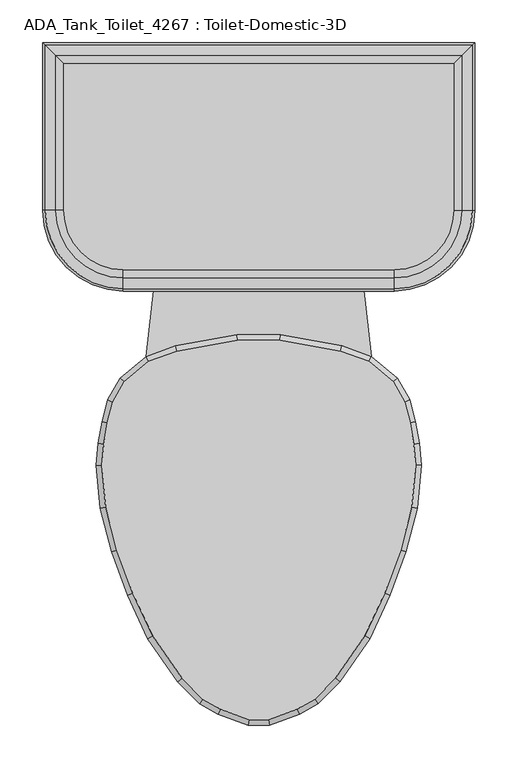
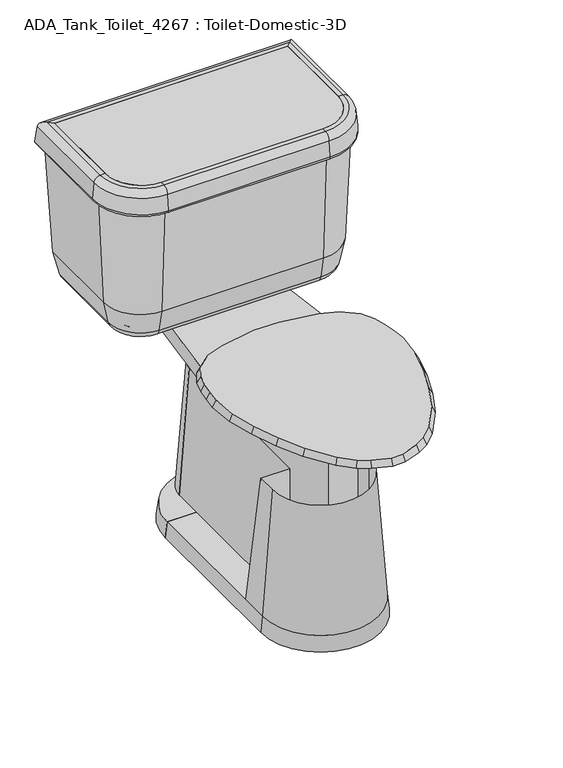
"""IFC4 building model written with IfcOpenShell, lengths in millimetres: flow terminal geometry, ADA_Tank_Toilet_4267 : Toilet-Domestic-3D."""

from ifc_helpers import new_model, si_unit, point, frame, frame_2d, origin, place, context, project, spatial, polyline, circle_curve, ellipse_curve, trimmed, segment, composite_curve, outline, extrude, faceted_brep, source, transform, mapped, element, save
from ifc_brep_helpers import plane_surface, cylinder_surface, revolved_surface, advanced_brep


def ada_tank_toilet_4267_toilet_domestic_3d_1f2812d0(model_context):
    return source(origin(), model_context, "Body", "SolidModel", [
        advanced_brep(
        [(-117.7636364, 285.75, 0.0), (-38.1, 285.75, 0.0), (-38.1, 285.75, 31.75), (-114.3, 285.75, 31.75), (117.7636364, 285.75, 0.0), (114.3, 285.75, 31.75), (38.1, 285.75, 31.75), (38.1, 285.75, 0.0)],
        [
            (0, 1),
            (1, 2),
            (2, 3),
            (3, 0),
            (4, 5),
            (5, 6),
            (6, 7),
            (7, 4),
            (7, 1, circle_curve(frame((0.0, 285.75, 0.0), z_axis=(0.0, 0.0, 1.0), x_axis=(-1.0, 0.0, 0.0)), 38.1)),
            (0, 4, circle_curve(frame((0.0, 285.75, 0.0), z_axis=(0.0, 0.0, -1.0), x_axis=(-1.0, 0.0, 0.0)), 117.7636364)),
            (6, 2, circle_curve(frame((0.0, 285.75, 31.75), z_axis=(0.0, 0.0, 1.0), x_axis=(-1.0, 0.0, 0.0)), 38.1)),
            (5, 3, circle_curve(frame((0.0, 285.75, 31.75), z_axis=(0.0, 0.0, 1.0), x_axis=(-1.0, 0.0, 0.0)), 114.3)),
        ],
        [
            plane_surface(frame((0.0, 285.75, -304.8), z_axis=(0.0, -1.0, 0.0), x_axis=(-1.0, 0.0, 0.0))),
            plane_surface(frame((0.0, 285.75, -304.8), z_axis=(0.0, -1.0, 0.0), x_axis=(1.0, 0.0, 0.0))),
            plane_surface(frame((0.0, 285.75, 0.0), z_axis=(0.0, 0.0, -1.0), x_axis=(-1.0, 0.0, 0.0))),
            revolved_surface(polyline([(-38.1, 285.75, 0.0), (-38.1, 285.75, 31.75)]), (0.0, 285.75, -304.8), (0.0, 0.0, -1.0)),
            plane_surface(frame((0.0, 285.75, 31.75), z_axis=(0.0, 0.0, 1.0), x_axis=(-1.0, 0.0, 0.0))),
            revolved_surface(polyline([(-114.3, 285.75, 31.75), (-117.7636364, 285.75, 0.0)]), (0.0, 285.75, -304.8), (0.0, 0.0, -1.0)),
        ],
        [
            (0, [[1, 2, 3, 4]]),
            (1, [[5, 6, 7, 8]]),
            (2, [[9, -1, 10, -8]]),
            (3, [[11, -2, -9, -7]]),
            (4, [[12, -3, -11, -6]]),
            (5, [[-10, -4, -12, -5]]),
        ],
    ),
        advanced_brep(
        [(-38.1, 342.9, 288.9252637), (-57.15, 342.9, 31.75), (-38.1, 342.9, 31.75), (38.1, 342.9, 288.9252637), (38.1, 342.9, 31.75), (57.15, 342.9, 31.75)],
        [
            (0, 1),
            (1, 2),
            (2, 0),
            (3, 4),
            (4, 5),
            (5, 3),
            (5, 1, circle_curve(frame((0.0, 342.9, 31.75), z_axis=(0.0, 0.0, 1.0), x_axis=(-1.0, 0.0, 0.0)), 57.15)),
            (0, 3, circle_curve(frame((0.0, 342.9, 288.9252637), z_axis=(0.0, 0.0, -1.0), x_axis=(-1.0, 0.0, 0.0)), 38.1)),
            (4, 2, circle_curve(frame((0.0, 342.9, 31.75), z_axis=(0.0, 0.0, 1.0), x_axis=(-1.0, 0.0, 0.0)), 38.1)),
        ],
        [
            plane_surface(frame((0.0, 342.9, 31.75), z_axis=(0.0, -1.0, 0.0), x_axis=(-1.0, 0.0, 0.0))),
            plane_surface(frame((0.0, 342.9, 31.75), z_axis=(0.0, -1.0, 0.0), x_axis=(1.0, 0.0, 0.0))),
            revolved_surface(polyline([(-38.1, 342.9, 288.9252637), (-57.15, 342.9, 31.75)]), (0.0, 342.9, 31.75), (0.0, 0.0, -1.0)),
            plane_surface(frame((0.0, 342.9, 31.75), z_axis=(0.0, 0.0, -1.0), x_axis=(-1.0, 0.0, 0.0))),
            revolved_surface(polyline([(-38.1, 342.9, 31.75), (-38.1, 342.9, 288.9252637)]), (0.0, 342.9, 31.75), (0.0, 0.0, -1.0)),
        ],
        [
            (0, [[1, 2, 3]]),
            (1, [[4, 5, 6]]),
            (2, [[7, -1, 8, -6]]),
            (3, [[9, -2, -7, -5]]),
            (4, [[-8, -3, -9, -4]]),
        ],
    ),
        faceted_brep([(-157.6293435, 97.472128, 482.6), (-171.060664, 73.773864, 482.6), (-177.5851102, 49.4242991, 482.6), (-181.9845715, 24.4737144, 482.6), (-184.125744, 0.0, 482.6), (-179.7950716, -49.4998127, 482.6), (-166.347, -99.688699, 482.6), (-148.0469602, -149.9676451, 482.6), (-124.7045808, -200.0255393, 482.6), (-90.0971582, -249.9125941, 482.6), (-65.691017, -274.3187354, 482.6), (-44.8990862, -286.3229622, 482.6), (-11.5803237, -298.45, 482.6), (11.5803237, -298.45, 482.6), (44.8990862, -286.3229622, 482.6), (65.691017, -274.3187354, 482.6), (90.0971582, -249.9125941, 482.6), (124.7045808, -200.0255393, 482.6), (148.0469602, -149.9676451, 482.6), (166.347, -99.688699, 482.6), (179.7950716, -49.4998127, 482.6), (184.125744, 0.0, 482.6), (181.9845715, 24.4737144, 482.6), (177.5851102, 49.4242991, 482.6), (171.060664, 73.773864, 482.6), (157.6293435, 97.472128, 482.6), (129.0942628, 121.4159037, 482.6), (95.7755003, 133.5429415, 482.6), (24.844447, 146.05, 482.6), (-24.844447, 146.05, 482.6), (-95.7755003, 133.5429415, 482.6), (-129.0942628, 121.4159037, 482.6), (-162.5887836, 101.6, 469.7681453), (-132.3182423, 127.0, 469.7681453), (-97.4252791, 139.7, 469.7681453), (-25.4, 152.4, 469.7681453), (25.4, 152.4, 469.7681453), (97.4252791, 139.7, 469.7681453), (132.3182423, 127.0, 469.7681453), (162.5887836, 101.6, 469.7681453), (176.9845865, 76.2, 469.7681453), (183.790496, 50.8, 469.7681453), (188.2862441, 25.3033453, 469.7681453), (190.5, 0.0, 469.7681453), (186.0724883, -50.6066907, 469.7681453), (172.4088722, -101.6, 469.7681453), (153.9191843, -152.4, 469.7681453), (130.2307553, -203.2, 469.7681453), (94.9900085, -254.0, 469.7681453), (69.5900085, -279.4, 469.7681453), (47.5929632, -292.1, 469.7681453), (12.7, -304.8, 469.7681453), (-12.7, -304.8, 469.7681453), (-47.5929632, -292.1, 469.7681453), (-69.5900085, -279.4, 469.7681453), (-94.9900085, -254.0, 469.7681453), (-130.2307553, -203.2, 469.7681453), (-153.9191843, -152.4, 469.7681453), (-172.4088722, -101.6, 469.7681453), (-186.0724883, -50.6066907, 469.7681453), (-190.5, 0.0, 469.7681453), (-188.2862441, 25.3033453, 469.7681453), (-183.790496, 50.8, 469.7681453), (-176.9845865, 76.2, 469.7681453)], [[[0, 1, 2, 3, 4, 5, 6, 7, 8, 9, 10, 11, 12, 13, 14, 15, 16, 17, 18, 19, 20, 21, 22, 23, 24, 25, 26, 27, 28, 29, 30, 31]], [[32, 33, 34, 35, 36, 37, 38, 39, 40, 41, 42, 43, 44, 45, 46, 47, 48, 49, 50, 51, 52, 53, 54, 55, 56, 57, 58, 59, 60, 61, 62, 63]], [[32, 63, 1, 0]], [[63, 62, 2, 1]], [[62, 61, 3, 2]], [[61, 60, 4, 3]], [[60, 59, 5, 4]], [[59, 58, 6, 5]], [[58, 57, 7, 6]], [[57, 56, 8, 7]], [[56, 55, 9, 8]], [[55, 54, 10, 9]], [[54, 53, 11, 10]], [[53, 52, 12, 11]], [[52, 51, 13, 12]], [[51, 50, 14, 13]], [[50, 49, 15, 14]], [[49, 48, 16, 15]], [[48, 47, 17, 16]], [[47, 46, 18, 17]], [[46, 45, 19, 18]], [[45, 44, 20, 19]], [[44, 43, 21, 20]], [[43, 42, 22, 21]], [[42, 41, 23, 22]], [[41, 40, 24, 23]], [[40, 39, 25, 24]], [[39, 38, 26, 25]], [[38, 37, 27, 26]], [[37, 36, 28, 27]], [[36, 35, 29, 28]], [[35, 34, 30, 29]], [[34, 33, 31, 30]], [[33, 32, 0, 31]]]),
        extrude(outline(composite_curve([segment(polyline([(228.5868869, 469.8868869), (228.5868869, 298.45)]), True, "CONTINUOUS"), segment(trimmed(circle_curve(frame_2d((158.75, 298.45)), 69.8368869), [point((228.5868869, 298.45))], [point((158.75, 228.6131131))], False, "CARTESIAN"), True, "CONTINUOUS"), segment(polyline([(158.75, 228.6131131), (-158.75, 228.6131131)]), True, "CONTINUOUS"), segment(trimmed(circle_curve(frame_2d((-158.75, 298.45)), 69.8368869), [point((-158.75, 228.6131131))], [point((-228.5868869, 298.45))], False, "CARTESIAN"), True, "CONTINUOUS"), segment(polyline([(-228.5868869, 298.45), (-228.5868869, 469.8868869), (228.5868869, 469.8868869)]), True, "CONTINUOUS")], self_intersect=False)), frame((0.0, 0.0, 736.6), z_axis=(0.0, 0.0, 1.0), x_axis=(1.0, 0.0, 0.0)), (0.0, 0.0, 1.0), 50.8),
        extrude(outline(composite_curve([segment(trimmed(circle_curve(frame_2d((0.0, 342.9)), 38.1), [point((-38.1, 342.9))], [point((38.1, 342.9))], False, "CARTESIAN"), True, "CONTINUOUS"), segment(polyline([(38.1, 342.9), (-38.1, 342.9)]), True, "CONTINUOUS")], self_intersect=False)), frame((0.0, 0.0, 288.925), z_axis=(0.0, 0.0, 1.0), x_axis=(1.0, 0.0, 0.0)), (0.0, 0.0, 1.0), 130.175),
        advanced_brep(
        [(177.8, 419.1, 469.7681453), (177.8, 419.1, 457.2), (177.8, 298.45, 457.2), (177.8, 298.45, 469.7681453), (192.8020829, 434.1020829, 469.7681453), (192.8020829, 298.45, 469.7681453), (211.4650931, 452.7650931, 484.9978636), (211.4650931, 298.45, 484.9978636), (218.7732506, 460.0732506, 520.7), (218.7732506, 298.45, 520.7), (228.5868869, 469.8868869, 736.6), (228.5868869, 298.45, 736.6), (228.5868869, 469.8868869, 787.4), (228.5868869, 298.45, 787.4), (237.91817, 479.21817, 787.4), (237.91817, 298.45, 787.4), (250.5698426, 491.8698426, 775.8068779), (250.5698426, 298.45, 775.8068779), (253.3960274, 494.6960274, 743.503439), (253.3960274, 298.45, 743.503439), (247.070191, 488.370191, 736.6), (247.070191, 298.45, 736.6), (241.3, 482.6, 736.6), (241.3, 298.45, 736.6), (231.4863636, 472.7863636, 520.7), (231.4863636, 298.45, 520.7), (222.3416824, 463.6416824, 476.0259963), (222.3416824, 298.45, 476.0259963), (197.8071664, 439.1071664, 457.2), (197.8071664, 298.45, 457.2), (158.75, 279.4, 469.7681453), (158.75, 279.4, 457.2), (158.75, 264.3979171, 469.7681453), (158.75, 245.7349069, 484.9978636), (158.75, 238.4267494, 520.7), (158.75, 228.6131131, 736.6), (158.75, 228.6131131, 787.4), (158.75, 219.28183, 787.4), (158.75, 206.6301574, 775.8068779), (158.75, 203.8039726, 743.503439), (158.75, 210.129809, 736.6), (158.75, 215.9, 736.6), (158.75, 225.7136364, 520.7), (158.75, 234.8583176, 476.0259963), (158.75, 259.3928336, 457.2), (-158.75, 279.4, 457.2), (-158.75, 279.4, 469.7681453), (-158.75, 264.3979171, 469.7681453), (-158.75, 245.7349069, 484.9978636), (-158.75, 238.4267494, 520.7), (-158.75, 228.6131131, 736.6), (-158.75, 228.6131131, 787.4), (-158.75, 219.28183, 787.4), (-158.75, 206.6301574, 775.8068779), (-158.75, 203.8039726, 743.503439), (-158.75, 210.129809, 736.6), (-158.75, 215.9, 736.6), (-158.75, 225.7136364, 520.7), (-158.75, 234.8583176, 476.0259963), (-158.75, 259.3928336, 457.2), (-177.8, 298.45, 469.7681453), (-177.8, 298.45, 457.2), (-192.8020829, 298.45, 469.7681453), (-211.4650931, 298.45, 484.9978636), (-218.7732506, 298.45, 520.7), (-228.5868869, 298.45, 736.6), (-228.5868869, 298.45, 787.4), (-237.91817, 298.45, 787.4), (-250.5698426, 298.45, 775.8068779), (-253.3960274, 298.45, 743.503439), (-247.070191, 298.45, 736.6), (-241.3, 298.45, 736.6), (-231.4863636, 298.45, 520.7), (-222.3416824, 298.45, 476.0259963), (-197.8071664, 298.45, 457.2), (-177.8, 419.1, 457.2), (-177.8, 419.1, 469.7681453), (-192.8020829, 434.1020829, 469.7681453), (-211.4650931, 452.7650931, 484.9978636), (-218.7732506, 460.0732506, 520.7), (-228.5868869, 469.8868869, 736.6), (-228.5868869, 469.8868869, 787.4), (-237.91817, 479.21817, 787.4), (-250.5698426, 491.8698426, 775.8068779), (-253.3960274, 494.6960274, 743.503439), (-247.070191, 488.370191, 736.6), (-241.3, 482.6, 736.6), (-231.4863636, 472.7863636, 520.7), (-222.3416824, 463.6416824, 476.0259963), (-197.8071664, 439.1071664, 457.2)],
        [
            (0, 1),
            (1, 2),
            (2, 3),
            (3, 0),
            (4, 0),
            (3, 5),
            (5, 4),
            (6, 4, ellipse_curve(frame((192.8020829, 434.1020829, 488.8181453), z_axis=(-0.7071067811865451, 0.7071067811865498, 0.0), x_axis=(-0.7071067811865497, -0.7071067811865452, 0.0)), 26.9407684, 19.05)),
            (5, 7, circle_curve(frame((192.8020829, 298.45, 488.8181453), z_axis=(0.0, -1.0, 0.0), x_axis=(1.0, 0.0, 0.0)), 19.05)),
            (7, 6),
            (8, 6),
            (7, 9),
            (9, 8),
            (10, 8),
            (9, 11),
            (11, 10),
            (12, 10),
            (11, 13),
            (13, 12),
            (14, 12),
            (13, 15),
            (15, 14),
            (16, 14, ellipse_curve(frame((237.91817, 479.21817, 774.7), z_axis=(0.7071067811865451, -0.7071067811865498, 0.0), x_axis=(0.7071067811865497, 0.7071067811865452, 0.0)), 17.9605122, 12.7)),
            (15, 17, circle_curve(frame((237.91817, 298.45, 774.7), z_axis=(0.0, 1.0, 0.0), x_axis=(1.0, 0.0, 0.0)), 12.7)),
            (17, 16),
            (18, 16),
            (17, 19),
            (19, 18),
            (20, 18, ellipse_curve(frame((247.070191, 488.370191, 742.95), z_axis=(0.7071067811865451, -0.7071067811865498, 0.0), x_axis=(0.7071067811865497, 0.7071067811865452, 0.0)), 8.9802561, 6.35)),
            (19, 21, circle_curve(frame((247.070191, 298.45, 742.95), z_axis=(0.0, 1.0, 0.0), x_axis=(1.0, 0.0, 0.0)), 6.35)),
            (21, 20),
            (22, 20),
            (21, 23),
            (23, 22),
            (24, 22),
            (23, 25),
            (25, 24),
            (26, 24),
            (25, 27),
            (27, 26),
            (28, 26, ellipse_curve(frame((197.8071664, 439.1071664, 482.6), z_axis=(0.7071067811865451, -0.7071067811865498, 0.0), x_axis=(0.7071067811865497, 0.7071067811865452, 0.0)), 35.9210245, 25.4)),
            (27, 29, circle_curve(frame((197.8071664, 298.45, 482.6), z_axis=(0.0, 1.0, 0.0), x_axis=(1.0, 0.0, 0.0)), 25.4)),
            (29, 28),
            (1, 28),
            (29, 2),
            (30, 3, circle_curve(frame((158.75, 298.45, 469.7681453), z_axis=(0.0, 0.0, 1.0), x_axis=(1.0, 0.0, 0.0)), 19.05)),
            (2, 31, circle_curve(frame((158.75, 298.45, 457.2), z_axis=(0.0, 0.0, -1.0), x_axis=(1.0, 0.0, 0.0)), 19.05)),
            (31, 30),
            (32, 5, circle_curve(frame((158.75, 298.45, 469.7681453), z_axis=(0.0, 0.0, 1.0), x_axis=(1.0, 0.0, 0.0)), 34.0520829)),
            (30, 32),
            (33, 7, circle_curve(frame((158.75, 298.45, 484.9978636), z_axis=(0.0, 0.0, 1.0), x_axis=(1.0, 0.0, 0.0)), 52.7150931)),
            (32, 33, circle_curve(frame((158.75, 264.3979171, 488.8181453), z_axis=(-1.0, 0.0, 0.0), x_axis=(0.0, -1.0, 0.0)), 19.05)),
            (34, 9, circle_curve(frame((158.75, 298.45, 520.7), z_axis=(0.0, 0.0, 1.0), x_axis=(1.0, 0.0, 0.0)), 60.0232506)),
            (33, 34),
            (35, 11, circle_curve(frame((158.75, 298.45, 736.6), z_axis=(0.0, 0.0, 1.0), x_axis=(1.0, 0.0, 0.0)), 69.8368869)),
            (34, 35),
            (36, 13, circle_curve(frame((158.75, 298.45, 787.4), z_axis=(0.0, 0.0, 1.0), x_axis=(1.0, 0.0, 0.0)), 69.8368869)),
            (35, 36),
            (37, 15, circle_curve(frame((158.75, 298.45, 787.4), z_axis=(0.0, 0.0, 1.0), x_axis=(1.0, 0.0, 0.0)), 79.16817)),
            (36, 37),
            (38, 17, circle_curve(frame((158.75, 298.45, 775.8068779), z_axis=(0.0, 0.0, 1.0), x_axis=(1.0, 0.0, 0.0)), 91.8198426)),
            (37, 38, circle_curve(frame((158.75, 219.28183, 774.7), z_axis=(1.0, 0.0, 0.0), x_axis=(0.0, -1.0, 0.0)), 12.7)),
            (39, 19, circle_curve(frame((158.75, 298.45, 743.503439), z_axis=(0.0, 0.0, 1.0), x_axis=(1.0, 0.0, 0.0)), 94.6460274)),
            (38, 39),
            (40, 21, circle_curve(frame((158.75, 298.45, 736.6), z_axis=(0.0, 0.0, 1.0), x_axis=(1.0, 0.0, 0.0)), 88.320191)),
            (39, 40, circle_curve(frame((158.75, 210.129809, 742.95), z_axis=(1.0, 0.0, 0.0), x_axis=(0.0, -1.0, 0.0)), 6.35)),
            (41, 23, circle_curve(frame((158.75, 298.45, 736.6), z_axis=(0.0, 0.0, 1.0), x_axis=(1.0, 0.0, 0.0)), 82.55)),
            (40, 41),
            (42, 25, circle_curve(frame((158.75, 298.45, 520.7), z_axis=(0.0, 0.0, 1.0), x_axis=(1.0, 0.0, 0.0)), 72.7363636)),
            (41, 42),
            (43, 27, circle_curve(frame((158.75, 298.45, 476.0259963), z_axis=(0.0, 0.0, 1.0), x_axis=(1.0, 0.0, 0.0)), 63.5916824)),
            (42, 43),
            (44, 29, circle_curve(frame((158.75, 298.45, 457.2), z_axis=(0.0, 0.0, 1.0), x_axis=(1.0, 0.0, 0.0)), 39.0571664)),
            (43, 44, circle_curve(frame((158.75, 259.3928336, 482.6), z_axis=(1.0, 0.0, 0.0), x_axis=(0.0, -1.0, 0.0)), 25.4)),
            (44, 31),
            (31, 45),
            (45, 46),
            (46, 30),
            (46, 47),
            (47, 32),
            (47, 48, circle_curve(frame((-158.75, 264.3979171, 488.8181453), z_axis=(-1.0, 0.0, 0.0), x_axis=(0.0, -1.0, 0.0)), 19.05)),
            (48, 33),
            (48, 49),
            (49, 34),
            (49, 50),
            (50, 35),
            (50, 51),
            (51, 36),
            (51, 52),
            (52, 37),
            (52, 53, circle_curve(frame((-158.75, 219.28183, 774.7), z_axis=(1.0, 0.0, 0.0), x_axis=(0.0, -1.0, 0.0)), 12.7)),
            (53, 38),
            (53, 54),
            (54, 39),
            (54, 55, circle_curve(frame((-158.75, 210.129809, 742.95), z_axis=(1.0, 0.0, 0.0), x_axis=(0.0, -1.0, 0.0)), 6.35)),
            (55, 40),
            (55, 56),
            (56, 41),
            (56, 57),
            (57, 42),
            (57, 58),
            (58, 43),
            (58, 59, circle_curve(frame((-158.75, 259.3928336, 482.6), z_axis=(1.0, 0.0, 0.0), x_axis=(0.0, -1.0, 0.0)), 25.4)),
            (59, 44),
            (59, 45),
            (60, 46, circle_curve(frame((-158.75, 298.45, 469.7681453), z_axis=(0.0, 0.0, 1.0), x_axis=(0.0, -1.0, 0.0)), 19.05)),
            (45, 61, circle_curve(frame((-158.75, 298.45, 457.2), z_axis=(0.0, 0.0, -1.0), x_axis=(0.0, -1.0, 0.0)), 19.05)),
            (61, 60),
            (62, 47, circle_curve(frame((-158.75, 298.45, 469.7681453), z_axis=(0.0, 0.0, 1.0), x_axis=(0.0, -1.0, 0.0)), 34.0520829)),
            (60, 62),
            (63, 48, circle_curve(frame((-158.75, 298.45, 484.9978636), z_axis=(0.0, 0.0, 1.0), x_axis=(0.0, -1.0, 0.0)), 52.7150931)),
            (62, 63, circle_curve(frame((-192.8020829, 298.45, 488.8181453), z_axis=(0.0, 1.0, 0.0), x_axis=(-1.0, 0.0, 0.0)), 19.05)),
            (64, 49, circle_curve(frame((-158.75, 298.45, 520.7), z_axis=(0.0, 0.0, 1.0), x_axis=(0.0, -1.0, 0.0)), 60.0232506)),
            (63, 64),
            (65, 50, circle_curve(frame((-158.75, 298.45, 736.6), z_axis=(0.0, 0.0, 1.0), x_axis=(0.0, -1.0, 0.0)), 69.8368869)),
            (64, 65),
            (66, 51, circle_curve(frame((-158.75, 298.45, 787.4), z_axis=(0.0, 0.0, 1.0), x_axis=(0.0, -1.0, 0.0)), 69.8368869)),
            (65, 66),
            (67, 52, circle_curve(frame((-158.75, 298.45, 787.4), z_axis=(0.0, 0.0, 1.0), x_axis=(0.0, -1.0, 0.0)), 79.16817)),
            (66, 67),
            (68, 53, circle_curve(frame((-158.75, 298.45, 775.8068779), z_axis=(0.0, 0.0, 1.0), x_axis=(0.0, -1.0, 0.0)), 91.8198426)),
            (67, 68, circle_curve(frame((-237.91817, 298.45, 774.7), z_axis=(0.0, -1.0, 0.0), x_axis=(-1.0, 0.0, 0.0)), 12.7)),
            (69, 54, circle_curve(frame((-158.75, 298.45, 743.503439), z_axis=(0.0, 0.0, 1.0), x_axis=(0.0, -1.0, 0.0)), 94.6460274)),
            (68, 69),
            (70, 55, circle_curve(frame((-158.75, 298.45, 736.6), z_axis=(0.0, 0.0, 1.0), x_axis=(0.0, -1.0, 0.0)), 88.320191)),
            (69, 70, circle_curve(frame((-247.070191, 298.45, 742.95), z_axis=(0.0, -1.0, 0.0), x_axis=(-1.0, 0.0, 0.0)), 6.35)),
            (71, 56, circle_curve(frame((-158.75, 298.45, 736.6), z_axis=(0.0, 0.0, 1.0), x_axis=(0.0, -1.0, 0.0)), 82.55)),
            (70, 71),
            (72, 57, circle_curve(frame((-158.75, 298.45, 520.7), z_axis=(0.0, 0.0, 1.0), x_axis=(0.0, -1.0, 0.0)), 72.7363636)),
            (71, 72),
            (73, 58, circle_curve(frame((-158.75, 298.45, 476.0259963), z_axis=(0.0, 0.0, 1.0), x_axis=(0.0, -1.0, 0.0)), 63.5916824)),
            (72, 73),
            (74, 59, circle_curve(frame((-158.75, 298.45, 457.2), z_axis=(0.0, 0.0, 1.0), x_axis=(0.0, -1.0, 0.0)), 39.0571664)),
            (73, 74, circle_curve(frame((-197.8071664, 298.45, 482.6), z_axis=(0.0, -1.0, 0.0), x_axis=(-1.0, 0.0, 0.0)), 25.4)),
            (74, 61),
            (61, 75),
            (75, 76),
            (76, 60),
            (76, 77),
            (77, 62),
            (77, 78, ellipse_curve(frame((-192.8020829, 434.1020829, 488.8181453), z_axis=(0.7071067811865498, 0.7071067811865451, 0.0), x_axis=(-0.7071067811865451, 0.70710678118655, 0.0)), 26.9407684, 19.05)),
            (78, 63),
            (78, 79),
            (79, 64),
            (79, 80),
            (80, 65),
            (80, 81),
            (81, 66),
            (81, 82),
            (82, 67),
            (82, 83, ellipse_curve(frame((-237.91817, 479.21817, 774.7), z_axis=(-0.7071067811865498, -0.7071067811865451, 0.0), x_axis=(0.7071067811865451, -0.70710678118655, 0.0)), 17.9605122, 12.7)),
            (83, 68),
            (83, 84),
            (84, 69),
            (84, 85, ellipse_curve(frame((-247.070191, 488.370191, 742.95), z_axis=(-0.7071067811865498, -0.7071067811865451, 0.0), x_axis=(0.7071067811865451, -0.70710678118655, 0.0)), 8.9802561, 6.35)),
            (85, 70),
            (85, 86),
            (86, 71),
            (86, 87),
            (87, 72),
            (87, 88),
            (88, 73),
            (88, 89, ellipse_curve(frame((-197.8071664, 439.1071664, 482.6), z_axis=(-0.7071067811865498, -0.7071067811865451, 0.0), x_axis=(0.7071067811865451, -0.70710678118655, 0.0)), 35.9210245, 25.4)),
            (89, 74),
            (89, 75),
            (75, 1),
            (0, 76),
            (4, 77),
            (6, 78),
            (8, 79),
            (10, 80),
            (12, 81),
            (14, 82),
            (16, 83),
            (18, 84),
            (20, 85),
            (22, 86),
            (24, 87),
            (26, 88),
            (28, 89),
        ],
        [
            plane_surface(frame((177.8, 419.1, 457.2), z_axis=(-1.0, 0.0, 0.0), x_axis=(0.0, -1.0, 0.0))),
            plane_surface(frame((177.8, 419.1, 469.7681453), z_axis=(0.0, 0.0, 1.0), x_axis=(0.0, -1.0, 0.0))),
            revolved_surface(polyline([(211.8520829, 298.45, 488.8181453), (211.8520829, 453.1520829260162, 488.8181453)]), (192.8020829, 419.1, 488.8181453), (0.0, -1.0, 0.0)),
            plane_surface(frame((211.4650931, 452.7650931, 484.9978636), z_axis=(-0.9796855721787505, 0.0, 0.2005397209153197), x_axis=(0.0, -1.0, 0.0))),
            plane_surface(frame((218.7732506, 460.0732506, 520.7), z_axis=(-0.9989685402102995, 0.0, 0.045407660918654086), x_axis=(0.0, -1.0, 0.0))),
            plane_surface(frame((228.5868869, 469.8868869, 736.6), z_axis=(-1.0, 0.0, 0.0), x_axis=(0.0, -1.0, 0.0))),
            plane_surface(frame((228.5868869, 469.8868869, 787.4), z_axis=(0.0, 0.0, 1.0), x_axis=(0.0, -1.0, 0.0))),
            cylinder_surface(frame((237.91817, 419.1, 774.7), z_axis=(0.0, 1.0, 0.0), x_axis=(1.0, 0.0, 0.0)), 12.7),
            plane_surface(frame((250.5698426, 491.8698426, 775.8068779), z_axis=(0.9961946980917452, 0.0, 0.08715574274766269), x_axis=(0.0, -1.0, 0.0))),
            cylinder_surface(frame((247.070191, 419.1, 742.95), z_axis=(0.0, 1.0, 0.0), x_axis=(1.0, 0.0, 0.0)), 6.35),
            plane_surface(frame((247.070191, 488.370191, 736.6), z_axis=(0.0, 0.0, -1.0), x_axis=(0.0, -1.0, 0.0))),
            plane_surface(frame((241.3, 482.6, 736.6), z_axis=(0.9989685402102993, 0.0, -0.04540766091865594), x_axis=(0.0, -1.0, 0.0))),
            plane_surface(frame((231.4863636, 472.7863636, 520.7), z_axis=(0.9796855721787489, 0.0, -0.20053972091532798), x_axis=(0.0, -1.0, 0.0))),
            cylinder_surface(frame((197.8071664, 419.1, 482.6), z_axis=(0.0, 1.0, 0.0), x_axis=(1.0, 0.0, 0.0)), 25.4),
            plane_surface(frame((197.8071664, 439.1071664, 457.2), z_axis=(0.0, 0.0, -1.0), x_axis=(0.0, -1.0, 0.0))),
            revolved_surface(polyline([(177.8, 298.45, 457.2), (177.8, 298.45, 469.7681453)]), (158.75, 298.45, 0.0), (0.0, 0.0, -1.0)),
            plane_surface(frame((158.75, 298.45, 469.7681453), z_axis=(0.0, 0.0, 1.0), x_axis=(1.0, 0.0, 0.0))),
            revolved_surface(trimmed(ellipse_curve(frame((192.8020829, 298.45, 488.8181453), z_axis=(0.0, -1.0, 0.0), x_axis=(1.0, 0.0, 0.0)), 19.05, 19.05), [point((192.8020829, 298.45, 469.7681453))], [point((211.4650931, 298.45, 484.9978636))], True, "CARTESIAN"), (158.75, 298.45, 0.0), (0.0, 0.0, -1.0)),
            revolved_surface(polyline([(211.4650931, 298.45, 484.9978636), (218.7732506, 298.45, 520.7)]), (158.75, 298.45, 0.0), (0.0, 0.0, -1.0)),
            revolved_surface(polyline([(218.7732506, 298.45, 520.7), (228.5868869, 298.45, 736.6)]), (158.75, 298.45, 0.0), (0.0, 0.0, -1.0)),
            revolved_surface(polyline([(228.5868869, 298.45, 736.6), (228.5868869, 298.45, 787.4)]), (158.75, 298.45, 0.0), (0.0, 0.0, -1.0)),
            plane_surface(frame((158.75, 298.45, 787.4), z_axis=(0.0, 0.0, 1.0), x_axis=(1.0, 0.0, 0.0))),
            revolved_surface(trimmed(ellipse_curve(frame((237.91817, 298.45, 774.7), z_axis=(0.0, 1.0, 0.0), x_axis=(1.0, 0.0, 0.0)), 12.7, 12.7), [point((237.91817, 298.45, 787.4))], [point((250.5698426, 298.45, 775.8068779))], True, "CARTESIAN"), (158.75, 298.45, 0.0), (0.0, 0.0, -1.0)),
            revolved_surface(polyline([(250.5698426, 298.45, 775.8068779), (253.3960274, 298.45, 743.503439)]), (158.75, 298.45, 0.0), (0.0, 0.0, -1.0)),
            revolved_surface(trimmed(ellipse_curve(frame((247.070191, 298.45, 742.95), z_axis=(0.0, 1.0, 0.0), x_axis=(1.0, 0.0, 0.0)), 6.35, 6.35), [point((253.3960274, 298.45, 743.503439))], [point((247.070191, 298.45, 736.6))], True, "CARTESIAN"), (158.75, 298.45, 0.0), (0.0, 0.0, -1.0)),
            plane_surface(frame((158.75, 298.45, 736.6), z_axis=(0.0, 0.0, -1.0), x_axis=(1.0, 0.0, 0.0))),
            revolved_surface(polyline([(241.3, 298.45, 736.6), (231.4863636, 298.45, 520.7)]), (158.75, 298.45, 0.0), (0.0, 0.0, -1.0)),
            revolved_surface(polyline([(231.4863636, 298.45, 520.7), (222.3416824, 298.45, 476.0259963)]), (158.75, 298.45, 0.0), (0.0, 0.0, -1.0)),
            revolved_surface(trimmed(ellipse_curve(frame((197.8071664, 298.45, 482.6), z_axis=(0.0, 1.0, 0.0), x_axis=(1.0, 0.0, 0.0)), 25.4, 25.4), [point((222.3416824, 298.45, 476.0259963))], [point((197.8071664, 298.45, 457.2))], True, "CARTESIAN"), (158.75, 298.45, 0.0), (0.0, 0.0, -1.0)),
            plane_surface(frame((158.75, 298.45, 457.2), z_axis=(0.0, 0.0, -1.0), x_axis=(1.0, 0.0, 0.0))),
            plane_surface(frame((158.75, 279.4, 457.2), z_axis=(0.0, 1.0, 0.0), x_axis=(-1.0, 0.0, 0.0))),
            plane_surface(frame((158.75, 279.4, 469.7681453), z_axis=(0.0, 0.0, 1.0), x_axis=(-1.0, 0.0, 0.0))),
            revolved_surface(polyline([(-158.75, 245.34791709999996, 488.8181453), (158.75, 245.34791709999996, 488.8181453)]), (158.75, 264.3979171, 488.8181453), (-1.0, 0.0, 0.0)),
            plane_surface(frame((158.75, 245.7349069, 484.9978636), z_axis=(0.0, 0.9796855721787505, 0.2005397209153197), x_axis=(-1.0, 0.0, 0.0))),
            plane_surface(frame((158.75, 238.4267494, 520.7), z_axis=(0.0, 0.9989685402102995, 0.045407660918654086), x_axis=(-1.0, 0.0, 0.0))),
            plane_surface(frame((158.75, 228.6131131, 736.6), z_axis=(0.0, 1.0, 0.0), x_axis=(-1.0, 0.0, 0.0))),
            plane_surface(frame((158.75, 228.6131131, 787.4), z_axis=(0.0, 0.0, 1.0), x_axis=(-1.0, 0.0, 0.0))),
            cylinder_surface(frame((158.75, 219.28183, 774.7), z_axis=(1.0, 0.0, 0.0), x_axis=(0.0, -1.0, 0.0)), 12.7),
            plane_surface(frame((158.75, 206.6301574, 775.8068779), z_axis=(0.0, -0.9961946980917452, 0.08715574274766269), x_axis=(-1.0, 0.0, 0.0))),
            cylinder_surface(frame((158.75, 210.129809, 742.95), z_axis=(1.0, 0.0, 0.0), x_axis=(0.0, -1.0, 0.0)), 6.35),
            plane_surface(frame((158.75, 210.129809, 736.6), z_axis=(0.0, 0.0, -1.0), x_axis=(-1.0, 0.0, 0.0))),
            plane_surface(frame((158.75, 215.9, 736.6), z_axis=(0.0, -0.9989685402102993, -0.04540766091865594), x_axis=(-1.0, 0.0, 0.0))),
            plane_surface(frame((158.75, 225.7136364, 520.7), z_axis=(0.0, -0.9796855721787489, -0.20053972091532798), x_axis=(-1.0, 0.0, 0.0))),
            cylinder_surface(frame((158.75, 259.3928336, 482.6), z_axis=(1.0, 0.0, 0.0), x_axis=(0.0, -1.0, 0.0)), 25.4),
            plane_surface(frame((158.75, 259.3928336, 457.2), z_axis=(0.0, 0.0, -1.0), x_axis=(-1.0, 0.0, 0.0))),
            revolved_surface(polyline([(-158.75, 279.4, 457.2), (-158.75, 279.4, 469.7681453)]), (-158.75, 298.45, 0.0), (0.0, 0.0, -1.0)),
            plane_surface(frame((-158.75, 298.45, 469.7681453), z_axis=(0.0, 0.0, 1.0), x_axis=(0.0, -1.0, 0.0))),
            revolved_surface(trimmed(ellipse_curve(frame((-158.75, 264.3979171, 488.8181453), z_axis=(-1.0, 0.0, 0.0), x_axis=(0.0, -1.0, 0.0)), 19.05, 19.05), [point((-158.75, 264.3979171, 469.7681453))], [point((-158.75, 245.7349069, 484.9978636))], True, "CARTESIAN"), (-158.75, 298.45, 0.0), (0.0, 0.0, -1.0)),
            revolved_surface(polyline([(-158.75, 245.7349069, 484.9978636), (-158.75, 238.4267494, 520.7)]), (-158.75, 298.45, 0.0), (0.0, 0.0, -1.0)),
            revolved_surface(polyline([(-158.75, 238.4267494, 520.7), (-158.75, 228.6131131, 736.6)]), (-158.75, 298.45, 0.0), (0.0, 0.0, -1.0)),
            revolved_surface(polyline([(-158.75, 228.6131131, 736.6), (-158.75, 228.6131131, 787.4)]), (-158.75, 298.45, 0.0), (0.0, 0.0, -1.0)),
            plane_surface(frame((-158.75, 298.45, 787.4), z_axis=(0.0, 0.0, 1.0), x_axis=(0.0, -1.0, 0.0))),
            revolved_surface(trimmed(ellipse_curve(frame((-158.75, 219.28183, 774.7), z_axis=(1.0, 0.0, 0.0), x_axis=(0.0, -1.0, 0.0)), 12.7, 12.7), [point((-158.75, 219.28183, 787.4))], [point((-158.75, 206.6301574, 775.8068779))], True, "CARTESIAN"), (-158.75, 298.45, 0.0), (0.0, 0.0, -1.0)),
            revolved_surface(polyline([(-158.75, 206.6301574, 775.8068779), (-158.75, 203.8039726, 743.503439)]), (-158.75, 298.45, 0.0), (0.0, 0.0, -1.0)),
            revolved_surface(trimmed(ellipse_curve(frame((-158.75, 210.129809, 742.95), z_axis=(1.0, 0.0, 0.0), x_axis=(0.0, -1.0, 0.0)), 6.35, 6.35), [point((-158.75, 203.8039726, 743.503439))], [point((-158.75, 210.129809, 736.6))], True, "CARTESIAN"), (-158.75, 298.45, 0.0), (0.0, 0.0, -1.0)),
            plane_surface(frame((-158.75, 298.45, 736.6), z_axis=(0.0, 0.0, -1.0), x_axis=(0.0, -1.0, 0.0))),
            revolved_surface(polyline([(-158.75, 215.9, 736.6), (-158.75, 225.7136364, 520.7)]), (-158.75, 298.45, 0.0), (0.0, 0.0, -1.0)),
            revolved_surface(polyline([(-158.75, 225.7136364, 520.7), (-158.75, 234.8583176, 476.0259963)]), (-158.75, 298.45, 0.0), (0.0, 0.0, -1.0)),
            revolved_surface(trimmed(ellipse_curve(frame((-158.75, 259.3928336, 482.6), z_axis=(1.0, 0.0, 0.0), x_axis=(0.0, -1.0, 0.0)), 25.4, 25.4), [point((-158.75, 234.8583176, 476.0259963))], [point((-158.75, 259.3928336, 457.2))], True, "CARTESIAN"), (-158.75, 298.45, 0.0), (0.0, 0.0, -1.0)),
            plane_surface(frame((-158.75, 298.45, 457.2), z_axis=(0.0, 0.0, -1.0), x_axis=(0.0, -1.0, 0.0))),
            plane_surface(frame((-177.8, 298.45, 457.2), z_axis=(1.0, 0.0, 0.0), x_axis=(0.0, 1.0, 0.0))),
            plane_surface(frame((-177.8, 298.45, 469.7681453), z_axis=(0.0, 0.0, 1.0), x_axis=(0.0, 1.0, 0.0))),
            revolved_surface(polyline([(-211.8520829, 453.15208292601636, 488.8181453), (-211.8520829, 298.45, 488.8181453)]), (-192.8020829, 298.45, 488.8181453), (0.0, 1.0, 0.0)),
            plane_surface(frame((-211.4650931, 298.45, 484.9978636), z_axis=(0.9796855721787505, 0.0, 0.2005397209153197), x_axis=(0.0, 1.0, 0.0))),
            plane_surface(frame((-218.7732506, 298.45, 520.7), z_axis=(0.9989685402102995, 0.0, 0.045407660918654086), x_axis=(0.0, 1.0, 0.0))),
            plane_surface(frame((-228.5868869, 298.45, 736.6), z_axis=(1.0, 0.0, 0.0), x_axis=(0.0, 1.0, 0.0))),
            plane_surface(frame((-228.5868869, 298.45, 787.4), z_axis=(0.0, 0.0, 1.0), x_axis=(0.0, 1.0, 0.0))),
            cylinder_surface(frame((-237.91817, 298.45, 774.7), z_axis=(0.0, -1.0, 0.0), x_axis=(-1.0, 0.0, 0.0)), 12.7),
            plane_surface(frame((-250.5698426, 298.45, 775.8068779), z_axis=(-0.9961946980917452, 0.0, 0.08715574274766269), x_axis=(0.0, 1.0, 0.0))),
            cylinder_surface(frame((-247.070191, 298.45, 742.95), z_axis=(0.0, -1.0, 0.0), x_axis=(-1.0, 0.0, 0.0)), 6.35),
            plane_surface(frame((-247.070191, 298.45, 736.6), z_axis=(0.0, 0.0, -1.0), x_axis=(0.0, 1.0, 0.0))),
            plane_surface(frame((-241.3, 298.45, 736.6), z_axis=(-0.9989685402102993, 0.0, -0.04540766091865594), x_axis=(0.0, 1.0, 0.0))),
            plane_surface(frame((-231.4863636, 298.45, 520.7), z_axis=(-0.9796855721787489, 0.0, -0.20053972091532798), x_axis=(0.0, 1.0, 0.0))),
            cylinder_surface(frame((-197.8071664, 298.45, 482.6), z_axis=(0.0, -1.0, 0.0), x_axis=(-1.0, 0.0, 0.0)), 25.4),
            plane_surface(frame((-197.8071664, 298.45, 457.2), z_axis=(0.0, 0.0, -1.0), x_axis=(0.0, 1.0, 0.0))),
            plane_surface(frame((-177.8, 419.1, 457.2), z_axis=(0.0, -1.0, 0.0), x_axis=(1.0, 0.0, 0.0))),
            plane_surface(frame((-177.8, 419.1, 469.7681453), z_axis=(0.0, 0.0, 1.0), x_axis=(1.0, 0.0, 0.0))),
            revolved_surface(polyline([(211.85208292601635, 453.15208290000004, 488.8181453), (-211.85208292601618, 453.15208290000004, 488.8181453)]), (-177.8, 434.1020829, 488.8181453), (1.0, 0.0, 0.0)),
            plane_surface(frame((-211.4650931, 452.7650931, 484.9978636), z_axis=(0.0, -0.9796855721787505, 0.2005397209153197), x_axis=(1.0, 0.0, 0.0))),
            plane_surface(frame((-218.7732506, 460.0732506, 520.7), z_axis=(0.0, -0.9989685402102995, 0.045407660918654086), x_axis=(1.0, 0.0, 0.0))),
            plane_surface(frame((-228.5868869, 469.8868869, 736.6), z_axis=(0.0, -1.0, 0.0), x_axis=(1.0, 0.0, 0.0))),
            plane_surface(frame((-228.5868869, 469.8868869, 787.4), z_axis=(0.0, 0.0, 1.0), x_axis=(1.0, 0.0, 0.0))),
            cylinder_surface(frame((-177.8, 479.21817, 774.7), z_axis=(-1.0, 0.0, 0.0), x_axis=(0.0, 1.0, 0.0)), 12.7),
            plane_surface(frame((-250.5698426, 491.8698426, 775.8068779), z_axis=(0.0, 0.9961946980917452, 0.08715574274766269), x_axis=(1.0, 0.0, 0.0))),
            cylinder_surface(frame((-177.8, 488.370191, 742.95), z_axis=(-1.0, 0.0, 0.0), x_axis=(0.0, 1.0, 0.0)), 6.35),
            plane_surface(frame((-247.070191, 488.370191, 736.6), z_axis=(0.0, 0.0, -1.0), x_axis=(1.0, 0.0, 0.0))),
            plane_surface(frame((-241.3, 482.6, 736.6), z_axis=(0.0, 0.9989685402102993, -0.04540766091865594), x_axis=(1.0, 0.0, 0.0))),
            plane_surface(frame((-231.4863636, 472.7863636, 520.7), z_axis=(0.0, 0.9796855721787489, -0.20053972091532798), x_axis=(1.0, 0.0, 0.0))),
            cylinder_surface(frame((-177.8, 439.1071664, 482.6), z_axis=(-1.0, 0.0, 0.0), x_axis=(0.0, 1.0, 0.0)), 25.4),
            plane_surface(frame((-197.8071664, 439.1071664, 457.2), z_axis=(0.0, 0.0, -1.0), x_axis=(1.0, 0.0, 0.0))),
        ],
        [
            (0, [[1, 2, 3, 4]]),
            (1, [[5, -4, 6, 7]]),
            (2, [[8, -7, 9, 10]]),
            (3, [[11, -10, 12, 13]]),
            (4, [[14, -13, 15, 16]]),
            (5, [[17, -16, 18, 19]]),
            (6, [[20, -19, 21, 22]]),
            (7, [[23, -22, 24, 25]]),
            (8, [[26, -25, 27, 28]]),
            (9, [[29, -28, 30, 31]]),
            (10, [[32, -31, 33, 34]]),
            (11, [[35, -34, 36, 37]]),
            (12, [[38, -37, 39, 40]]),
            (13, [[41, -40, 42, 43]]),
            (14, [[44, -43, 45, -2]]),
            (15, [[46, -3, 47, 48]]),
            (16, [[49, -6, -46, 50]]),
            (17, [[51, -9, -49, 52]]),
            (18, [[53, -12, -51, 54]]),
            (19, [[55, -15, -53, 56]]),
            (20, [[57, -18, -55, 58]]),
            (21, [[59, -21, -57, 60]]),
            (22, [[61, -24, -59, 62]]),
            (23, [[63, -27, -61, 64]]),
            (24, [[65, -30, -63, 66]]),
            (25, [[67, -33, -65, 68]]),
            (26, [[69, -36, -67, 70]]),
            (27, [[71, -39, -69, 72]]),
            (28, [[73, -42, -71, 74]]),
            (29, [[-47, -45, -73, 75]]),
            (30, [[-48, 76, 77, 78]]),
            (31, [[-50, -78, 79, 80]]),
            (32, [[-52, -80, 81, 82]]),
            (33, [[-54, -82, 83, 84]]),
            (34, [[-56, -84, 85, 86]]),
            (35, [[-58, -86, 87, 88]]),
            (36, [[-60, -88, 89, 90]]),
            (37, [[-62, -90, 91, 92]]),
            (38, [[-64, -92, 93, 94]]),
            (39, [[-66, -94, 95, 96]]),
            (40, [[-68, -96, 97, 98]]),
            (41, [[-70, -98, 99, 100]]),
            (42, [[-72, -100, 101, 102]]),
            (43, [[-74, -102, 103, 104]]),
            (44, [[-75, -104, 105, -76]]),
            (45, [[106, -77, 107, 108]]),
            (46, [[109, -79, -106, 110]]),
            (47, [[111, -81, -109, 112]]),
            (48, [[113, -83, -111, 114]]),
            (49, [[115, -85, -113, 116]]),
            (50, [[117, -87, -115, 118]]),
            (51, [[119, -89, -117, 120]]),
            (52, [[121, -91, -119, 122]]),
            (53, [[123, -93, -121, 124]]),
            (54, [[125, -95, -123, 126]]),
            (55, [[127, -97, -125, 128]]),
            (56, [[129, -99, -127, 130]]),
            (57, [[131, -101, -129, 132]]),
            (58, [[133, -103, -131, 134]]),
            (59, [[-107, -105, -133, 135]]),
            (60, [[-108, 136, 137, 138]]),
            (61, [[-110, -138, 139, 140]]),
            (62, [[-112, -140, 141, 142]]),
            (63, [[-114, -142, 143, 144]]),
            (64, [[-116, -144, 145, 146]]),
            (65, [[-118, -146, 147, 148]]),
            (66, [[-120, -148, 149, 150]]),
            (67, [[-122, -150, 151, 152]]),
            (68, [[-124, -152, 153, 154]]),
            (69, [[-126, -154, 155, 156]]),
            (70, [[-128, -156, 157, 158]]),
            (71, [[-130, -158, 159, 160]]),
            (72, [[-132, -160, 161, 162]]),
            (73, [[-134, -162, 163, 164]]),
            (74, [[-135, -164, 165, -136]]),
            (75, [[-137, 166, -1, 167]]),
            (76, [[-139, -167, -5, 168]]),
            (77, [[-141, -168, -8, 169]]),
            (78, [[-143, -169, -11, 170]]),
            (79, [[-145, -170, -14, 171]]),
            (80, [[-147, -171, -17, 172]]),
            (81, [[-149, -172, -20, 173]]),
            (82, [[-151, -173, -23, 174]]),
            (83, [[-153, -174, -26, 175]]),
            (84, [[-155, -175, -29, 176]]),
            (85, [[-157, -176, -32, 177]]),
            (86, [[-159, -177, -35, 178]]),
            (87, [[-161, -178, -38, 179]]),
            (88, [[-163, -179, -41, 180]]),
            (89, [[-165, -180, -44, -166]]),
        ],
    ),
        extrude(outline(composite_curve([segment(polyline([(-25.4, 152.4), (-97.4252791, 139.7), (-132.3182423, 127.0), (-101.4824733, 395.1508638)]), True, "CONTINUOUS"), segment(trimmed(circle_curve(frame_2d((-88.8656197, 393.7)), 12.7), [point((-101.4824733, 395.1508638))], [point((-88.8656197, 406.4))], False, "CARTESIAN"), True, "CONTINUOUS"), segment(polyline([(-88.8656197, 406.4), (88.8656197, 406.4)]), True, "CONTINUOUS"), segment(trimmed(circle_curve(frame_2d((88.8656197, 393.7)), 12.7), [point((88.8656197, 406.4))], [point((101.4824733, 395.1508638))], False, "CARTESIAN"), True, "CONTINUOUS"), segment(polyline([(101.4824733, 395.1508638), (132.3182423, 127.0), (97.4252791, 139.7), (25.4, 152.4), (0.0, 152.4), (-25.4, 152.4)]), True, "CONTINUOUS")], self_intersect=False)), frame((0.0, 0.0, 412.75), z_axis=(0.0, 0.0, 1.0), x_axis=(1.0, 0.0, 0.0)), (0.0, 0.0, 1.0), 31.75),
        extrude(outline(polyline([(139.7, 347.0747209), (152.4, 419.1), (342.9, 419.1), (342.9, 288.925), (107.4852632, 288.925), (127.0, 312.1817577), (139.7, 347.0747209)])), frame((-38.1, 0.0, 0.0), z_axis=(1.0, 0.0, 0.0), x_axis=(0.0, 1.0, 0.0)), (0.0, 0.0, 1.0), 76.2),
        advanced_brep(
        [(-117.7636364, 285.75, 0.0), (-114.3, 285.75, 31.75), (-38.1, 285.75, 31.75), (-38.1, 285.75, 0.0), (-117.7636364, -38.0999951, 0.0), (-114.3, -38.0999951, 31.75), (-38.1, -38.0999951, 31.75), (-38.1, -38.0999951, 0.0), (114.2999707, -38.0999951, 31.75), (117.7636071, -38.0999951, 0.0), (38.0999707, -38.0999951, 31.75), (38.0999707, -38.0999951, 0.0), (117.7636071, 285.6681634, 0.0), (38.0999707, 285.6681634, 0.0), (38.0999707, 285.6681634, 31.75), (114.2999707, 285.6681634, 31.75)],
        [
            (0, 1),
            (1, 2),
            (2, 3),
            (3, 0),
            (0, 4),
            (4, 5),
            (5, 1),
            (5, 6),
            (6, 2),
            (6, 7),
            (7, 3),
            (7, 4),
            (8, 5, circle_curve(frame((-1.46e-05, -38.0999951, 31.75), z_axis=(0.0, 0.0, -1.0), x_axis=(-1.0, 0.0, 0.0)), 114.2999854)),
            (4, 9, circle_curve(frame((-1.46e-05, -38.0999951, 0.0), z_axis=(0.0, 0.0, 1.0), x_axis=(-1.0, 0.0, 0.0)), 117.7636217)),
            (9, 8),
            (10, 6, circle_curve(frame((-1.46e-05, -38.0999951, 31.75), z_axis=(0.0, 0.0, -1.0), x_axis=(-1.0, 0.0, 0.0)), 38.0999854)),
            (8, 10),
            (11, 7, circle_curve(frame((-1.46e-05, -38.0999951, 0.0), z_axis=(0.0, 0.0, -1.0), x_axis=(-1.0, 0.0, 0.0)), 38.0999854)),
            (10, 11),
            (11, 9),
            (12, 13),
            (13, 14),
            (14, 15),
            (15, 12),
            (9, 12),
            (15, 8),
            (14, 10),
            (13, 11),
        ],
        [
            plane_surface(frame((-196.85, 285.75, 0.0), z_axis=(0.0, 1.0, 0.0), x_axis=(0.0, 0.0, -1.0))),
            plane_surface(frame((-117.7636364, 285.75, 0.0), z_axis=(-0.9941021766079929, 0.0, 0.10844751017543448), x_axis=(0.0, -1.0, 0.0))),
            plane_surface(frame((-114.3, 285.75, 31.75), z_axis=(0.0, 0.0, 1.0), x_axis=(0.0, -1.0, 0.0))),
            plane_surface(frame((-38.1, 285.75, 31.75), z_axis=(1.0, 0.0, 0.0), x_axis=(0.0, -1.0, 0.0))),
            plane_surface(frame((-38.1, 285.75, 0.0), z_axis=(0.0, 0.0, -1.0), x_axis=(0.0, -1.0, 0.0))),
            revolved_surface(polyline([(-117.7636364, -38.0999951, 0.0), (-114.3, -38.0999951, 31.75)]), (-1.46e-05, -38.0999951, 0.0), (0.0, 0.0, 1.0)),
            plane_surface(frame((-1.46e-05, -38.0999951, 31.75), z_axis=(0.0, 0.0, 1.0), x_axis=(-1.0, 0.0, 0.0))),
            revolved_surface(polyline([(-38.1, -38.0999951, 31.75), (-38.1, -38.0999951, 0.0)]), (-1.46e-05, -38.0999951, 0.0), (0.0, 0.0, 1.0)),
            plane_surface(frame((-1.46e-05, -38.0999951, 0.0), z_axis=(0.0, 0.0, -1.0), x_axis=(-1.0, 0.0, 0.0))),
            plane_surface(frame((31.7499707, 285.6681634, 0.0), z_axis=(0.0, 1.0, 0.0), x_axis=(0.0, 0.0, 1.0))),
            plane_surface(frame((117.7636071, -38.0999951, 0.0), z_axis=(0.9941021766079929, 0.0, 0.10844751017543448), x_axis=(0.0, 1.0, 0.0))),
            plane_surface(frame((114.2999707, -38.0999951, 31.75), z_axis=(0.0, 0.0, 1.0), x_axis=(0.0, 1.0, 0.0))),
            plane_surface(frame((38.0999707, -38.0999951, 31.75), z_axis=(-1.0, 0.0, 0.0), x_axis=(0.0, 1.0, 0.0))),
            plane_surface(frame((38.0999707, -38.0999951, 0.0), z_axis=(0.0, 0.0, -1.0), x_axis=(0.0, 1.0, 0.0))),
        ],
        [
            (0, [[1, 2, 3, 4]]),
            (1, [[-1, 5, 6, 7]]),
            (2, [[-2, -7, 8, 9]]),
            (3, [[-3, -9, 10, 11]]),
            (4, [[-4, -11, 12, -5]]),
            (5, [[13, -6, 14, 15]]),
            (6, [[16, -8, -13, 17]]),
            (7, [[18, -10, -16, 19]]),
            (8, [[-14, -12, -18, 20]]),
            (9, [[21, 22, 23, 24]]),
            (10, [[-15, 25, -24, 26]]),
            (11, [[-17, -26, -23, 27]]),
            (12, [[-19, -27, -22, 28]]),
            (13, [[-20, -28, -21, -25]]),
        ],
    ),
        advanced_brep(
        [(-57.1499805, 342.9, 31.75), (-38.1, 342.9, 288.925), (-38.1, 342.9, 31.75), (-57.1499805, 19.0499805, 31.75), (-38.1, 0.0, 288.925), (-38.1, 0.0, 31.75), (-114.2999805, 19.0499805, 31.75), (-95.25, 0.0, 288.925), (-95.25, 0.0, 31.75), (-114.2999805, -38.1, 31.75), (-95.25, -38.1, 288.925), (-95.25, -38.1, 31.75), (95.25, -38.1, 288.925), (114.2999805, -38.1, 31.75), (95.25, -38.1, 31.75), (114.2999805, 19.0499805, 31.75), (95.25, 0.0, 288.925), (95.25, 0.0, 31.75), (57.1499805, 19.0499805, 31.75), (38.1, 0.0, 288.925), (38.1, 0.0, 31.75), (57.1499805, 342.9, 31.75), (38.1, 342.9, 31.75), (38.1, 342.9, 288.925)],
        [
            (0, 1),
            (1, 2),
            (2, 0),
            (0, 3),
            (3, 4),
            (4, 1),
            (4, 5),
            (5, 2),
            (5, 3),
            (3, 6),
            (6, 7),
            (7, 4),
            (7, 8),
            (8, 5),
            (8, 6),
            (6, 9),
            (9, 10),
            (10, 7),
            (10, 11),
            (11, 8),
            (11, 9),
            (12, 10, circle_curve(frame((0.0, -38.1, 288.925), z_axis=(0.0, 0.0, -1.0), x_axis=(-1.0, 0.0, 0.0)), 95.25)),
            (9, 13, circle_curve(frame((0.0, -38.1, 31.75), z_axis=(0.0, 0.0, 1.0), x_axis=(-1.0, 0.0, 0.0)), 114.2999805)),
            (13, 12),
            (14, 11, circle_curve(frame((0.0, -38.1, 31.75), z_axis=(0.0, 0.0, -1.0), x_axis=(-1.0, 0.0, 0.0)), 95.25)),
            (12, 14),
            (14, 13),
            (13, 15),
            (15, 16),
            (16, 12),
            (16, 17),
            (17, 14),
            (17, 15),
            (15, 18),
            (18, 19),
            (19, 16),
            (19, 20),
            (20, 17),
            (20, 18),
            (21, 22),
            (22, 23),
            (23, 21),
            (18, 21),
            (23, 19),
            (22, 20),
        ],
        [
            plane_surface(frame((-327.025, 342.9, 0.0), z_axis=(0.0, 1.0, 0.0), x_axis=(0.0, 0.0, -1.0))),
            plane_surface(frame((-57.1499805, 342.9, 31.75), z_axis=(-0.9972677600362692, 0.0, 0.07387161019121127), x_axis=(0.0, -1.0, 0.0))),
            plane_surface(frame((-38.1, 342.9, 288.925), z_axis=(1.0, 0.0, 0.0), x_axis=(0.0, -1.0, 0.0))),
            plane_surface(frame((-38.1, 342.9, 31.75), z_axis=(0.0, 0.0, -1.0), x_axis=(0.0, -1.0, 0.0))),
            plane_surface(frame((-57.1499805, 19.0499805, 31.75), z_axis=(0.0, 0.9972677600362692, 0.07387161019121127), x_axis=(-1.0, 0.0, 0.0))),
            plane_surface(frame((-38.1, 0.0, 288.925), z_axis=(0.0, -1.0, 0.0), x_axis=(-1.0, 0.0, 0.0))),
            plane_surface(frame((-38.1, 0.0, 31.75), z_axis=(0.0, 0.0, -1.0), x_axis=(-1.0, 0.0, 0.0))),
            plane_surface(frame((-114.2999805, 19.0499805, 31.75), z_axis=(-0.9972677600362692, 0.0, 0.07387161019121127), x_axis=(0.0, -1.0, 0.0))),
            plane_surface(frame((-95.25, 0.0, 288.925), z_axis=(1.0, 0.0, 0.0), x_axis=(0.0, -1.0, 0.0))),
            plane_surface(frame((-95.25, 0.0, 31.75), z_axis=(0.0, 0.0, -1.0), x_axis=(0.0, -1.0, 0.0))),
            revolved_surface(polyline([(-114.2999805, -38.1, 31.75), (-95.25, -38.1, 288.925)]), (0.0, -38.1, 0.0), (0.0, 0.0, 1.0)),
            revolved_surface(polyline([(-95.25, -38.1, 288.925), (-95.25, -38.1, 31.75)]), (0.0, -38.1, 0.0), (0.0, 0.0, 1.0)),
            plane_surface(frame((0.0, -38.1, 31.75), z_axis=(0.0, 0.0, -1.0), x_axis=(-1.0, 0.0, 0.0))),
            plane_surface(frame((114.2999805, -38.1, 31.75), z_axis=(0.9972677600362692, 0.0, 0.07387161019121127), x_axis=(0.0, 1.0, 0.0))),
            plane_surface(frame((95.25, -38.1, 288.925), z_axis=(-1.0, 0.0, 0.0), x_axis=(0.0, 1.0, 0.0))),
            plane_surface(frame((95.25, -38.1, 31.75), z_axis=(0.0, 0.0, -1.0), x_axis=(0.0, 1.0, 0.0))),
            plane_surface(frame((114.2999805, 19.0499805, 31.75), z_axis=(0.0, 0.9972677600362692, 0.07387161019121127), x_axis=(-1.0, 0.0, 0.0))),
            plane_surface(frame((95.25, 0.0, 288.925), z_axis=(0.0, -1.0, 0.0), x_axis=(-1.0, 0.0, 0.0))),
            plane_surface(frame((95.25, 0.0, 31.75), z_axis=(0.0, 0.0, -1.0), x_axis=(-1.0, 0.0, 0.0))),
            plane_surface(frame((-250.825, 342.9, 0.0), z_axis=(0.0, 1.0, 0.0), x_axis=(0.0, 0.0, 1.0))),
            plane_surface(frame((57.1499805, 19.0499805, 31.75), z_axis=(0.9972677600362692, 0.0, 0.07387161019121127), x_axis=(0.0, 1.0, 0.0))),
            plane_surface(frame((38.1, 0.0, 288.925), z_axis=(-1.0, 0.0, 0.0), x_axis=(0.0, 1.0, 0.0))),
            plane_surface(frame((38.1, 0.0, 31.75), z_axis=(0.0, 0.0, -1.0), x_axis=(0.0, 1.0, 0.0))),
        ],
        [
            (0, [[1, 2, 3]]),
            (1, [[-1, 4, 5, 6]]),
            (2, [[-2, -6, 7, 8]]),
            (3, [[-3, -8, 9, -4]]),
            (4, [[-5, 10, 11, 12]]),
            (5, [[-7, -12, 13, 14]]),
            (6, [[-9, -14, 15, -10]]),
            (7, [[-11, 16, 17, 18]]),
            (8, [[-13, -18, 19, 20]]),
            (9, [[-15, -20, 21, -16]]),
            (10, [[22, -17, 23, 24]]),
            (11, [[25, -19, -22, 26]]),
            (12, [[-23, -21, -25, 27]]),
            (13, [[-24, 28, 29, 30]]),
            (14, [[-26, -30, 31, 32]]),
            (15, [[-27, -32, 33, -28]]),
            (16, [[-29, 34, 35, 36]]),
            (17, [[-31, -36, 37, 38]]),
            (18, [[-33, -38, 39, -34]]),
            (19, [[40, 41, 42]]),
            (20, [[-35, 43, -42, 44]]),
            (21, [[-37, -44, -41, 45]]),
            (22, [[-39, -45, -40, -43]]),
        ],
    ),
    ])


if __name__ == "__main__":
    model = new_model("IFC4")
    model_context = context("Model", 3, world=origin())
    ifc_project = project(units=[si_unit("LENGTHUNIT", "METRE", prefix="MILLI")], contexts=[model_context])
    site = spatial("IfcSite", under=ifc_project)
    building = spatial("IfcBuilding", under=site)
    placement = place(None, origin())
    ada_tank_toilet_4267_toilet_domestic_3d_shape = ada_tank_toilet_4267_toilet_domestic_3d_1f2812d0(model_context)
    element("IfcFlowTerminal", 1, ObjectType="ADA_Tank_Toilet_4267 : Toilet-Domestic-3D", at=placement, inside=building, context=model_context, shape_type="MappedRepresentation", body=[
        mapped(ada_tank_toilet_4267_toilet_domestic_3d_shape, transform((0.0, 0.0, 0.0), x_axis=(1.0, 0.0, 0.0), y_axis=(0.0, 1.0, 0.0), z_axis=(0.0, 0.0, 1.0))),
    ])
    save(model, "model.ifc")
